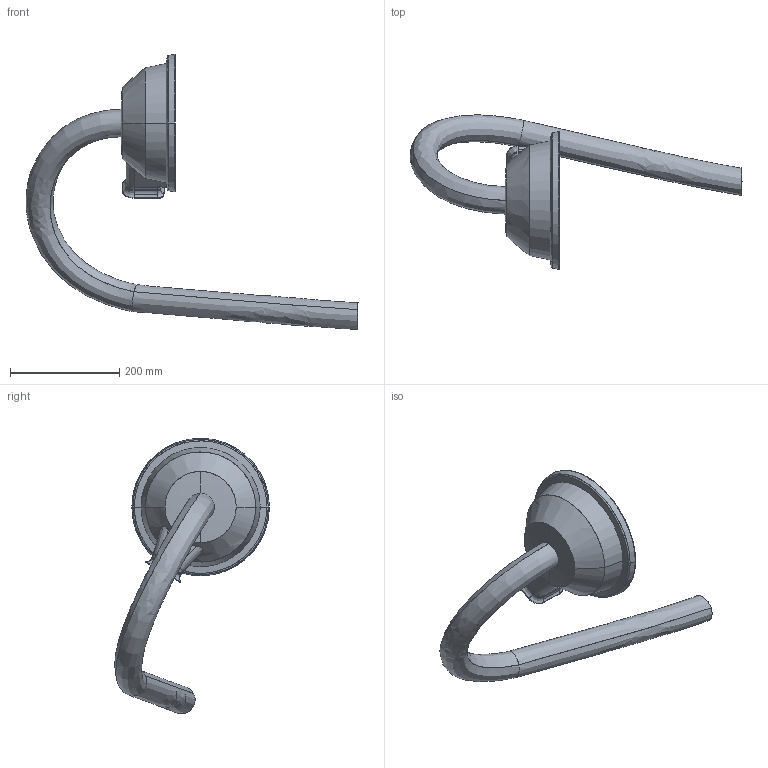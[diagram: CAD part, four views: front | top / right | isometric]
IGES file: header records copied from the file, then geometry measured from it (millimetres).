
Start section: SolidWorks IGES file using analytic representation for surfaces
Global section: file name: C:\Users\SEALDUN\OneDrive - ABB\Documents\R&D Robotics\Work Items\WI 632927\IGES\IRB5710-LID-SW_70kg-270_OC_02_IGES_J\IRB5710-LID-SW_70kg-270_OC_01_LINK03b_CABLE.igs; native system: SolidWorks 2024; preprocessor: SolidWorks 2024; author: SEALDUN; date: 250707.155110; units: millimetre
Bounding box: 606.54 x 282.6 x 503.23 mm (x, y, z)
Surface area: 300094 mm2 (no closed solid volume)
Topology: 0 solids, 0 shells, 117 faces, 1029 edges, 1028 vertices
Faces by surface type: bspline 64, revolution 53
